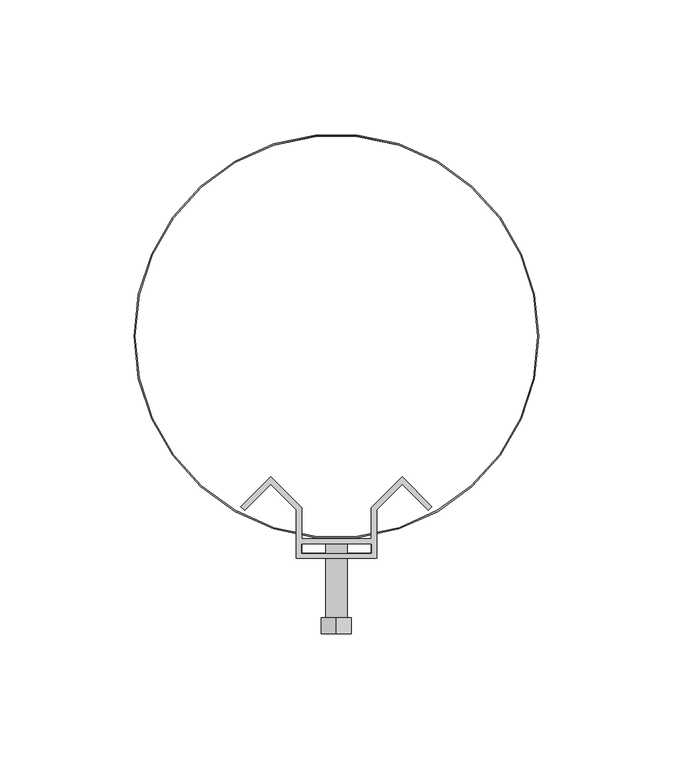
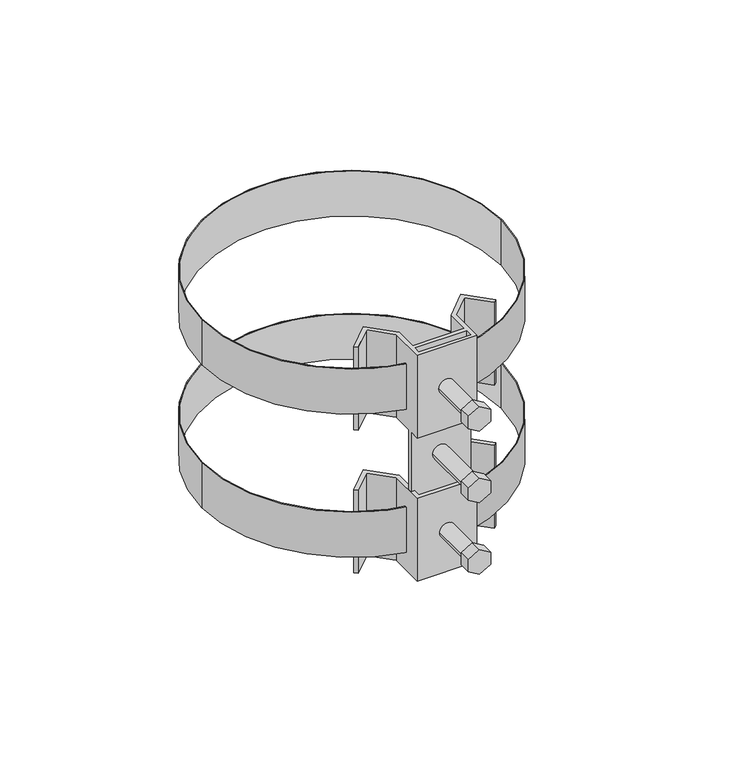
"""IFC4 building model written with IfcOpenShell, lengths in millimetres: proxy geometry, КНС_ХомутДвойнойТрубныйДляИзолированнойМачты_DKC : NK3103_Нержавеющая сталь_D150."""

from ifc_helpers import new_model, si_unit, point, frame, frame_2d, origin, origin_2d, place, context, project, spatial, polyline, circle_curve, trimmed, segment, composite_curve, outline, extrude, faceted_brep, source, transform, mapped, element, save


def security_devices_05d823bf(model_context):
    return source(origin(), model_context, "Body", "SolidModel", [
        extrude(outline(polyline([(-24.5148443, -55.2143378), (-34.1969759, -64.8964694), (-35.6111894, -63.4822559), (-24.5148443, -52.3859107), (-13.0, -63.900755), (-13.0, -80.8323522), (13.0, -80.8323522), (13.0, -63.900755), (24.5148443, -52.3859107), (35.6111894, -63.4822559), (34.1969759, -64.8964694), (24.5148443, -55.2143378), (15.0, -64.7291821), (15.0, -82.8323522), (-15.0, -82.8323522), (-15.0, -64.7291821), (-24.5148443, -55.2143378)])), frame((0.0, 0.0, -60.0), z_axis=(0.0, 0.0, 1.0), x_axis=(1.0, 0.0, 0.0)), (0.0, 0.0, 1.0), 44.0),
        extrude(outline(composite_curve([segment(trimmed(circle_curve(frame_2d((-38.0, 0.0)), 4.0), [point((-38.0, -4.0))], [point((-38.0, 4.0))], False, "CARTESIAN"), True, "CONTINUOUS"), segment(trimmed(circle_curve(frame_2d((-38.0, 0.0)), 4.0), [point((-38.0, 4.0))], [point((-38.0, -4.0))], False, "CARTESIAN"), True, "CONTINUOUS")], self_intersect=False)), frame((0.0, -105.0, 0.0), z_axis=(0.0, 1.0, 0.0), x_axis=(0.0, 0.0, 1.0)), (0.0, 0.0, 1.0), 30.0),
        extrude(outline(polyline([(-34.7486159, -5.6315625), (-41.2513841, -5.6315625), (-44.5027683, 0.0), (-41.2513841, 5.6315625), (-34.7486159, 5.6315625), (-31.4972317, 0.0), (-34.7486159, -5.6315625)])), frame((0.0, -111.0, 0.0), z_axis=(0.0, 1.0, 0.0), x_axis=(0.0, 0.0, 1.0)), (0.0, 0.0, 1.0), 6.0),
        extrude(outline(composite_curve([segment(trimmed(circle_curve(origin_2d(), 4.0), [point((0.0, -4.0))], [point((0.0, 4.0))], False, "CARTESIAN"), True, "CONTINUOUS"), segment(trimmed(circle_curve(origin_2d(), 4.0), [point((0.0, 4.0))], [point((0.0, -4.0))], False, "CARTESIAN"), True, "CONTINUOUS")], self_intersect=False)), frame((0.0, -105.0, 0.0), z_axis=(0.0, 1.0, 0.0), x_axis=(0.0, 0.0, 1.0)), (0.0, 0.0, 1.0), 30.0),
        extrude(outline(polyline([(3.2513841, -5.6315625), (-3.2513841, -5.6315625), (-6.5027683, 0.0), (-3.2513841, 5.6315625), (3.2513841, 5.6315625), (6.5027683, 0.0), (3.2513841, -5.6315625)])), frame((0.0, -111.0, 0.0), z_axis=(0.0, 1.0, 0.0), x_axis=(0.0, 0.0, 1.0)), (0.0, 0.0, 1.0), 6.0),
        extrude(outline(composite_curve([segment(trimmed(circle_curve(frame_2d((38.0, 0.0)), 4.0), [point((38.0, -4.0))], [point((38.0, 4.0))], False, "CARTESIAN"), True, "CONTINUOUS"), segment(trimmed(circle_curve(frame_2d((38.0, 0.0)), 4.0), [point((38.0, 4.0))], [point((38.0, -4.0))], False, "CARTESIAN"), True, "CONTINUOUS")], self_intersect=False)), frame((0.0, -105.0, 0.0), z_axis=(0.0, 1.0, 0.0), x_axis=(0.0, 0.0, 1.0)), (0.0, 0.0, 1.0), 30.0),
        extrude(outline(polyline([(41.2513841, -5.6315625), (34.7486159, -5.6315625), (31.4972317, 0.0), (34.7486159, 5.6315625), (41.2513841, 5.6315625), (44.5027683, 0.0), (41.2513841, -5.6315625)])), frame((0.0, -111.0, 0.0), z_axis=(0.0, 1.0, 0.0), x_axis=(0.0, 0.0, 1.0)), (0.0, 0.0, 1.0), 6.0),
        faceted_brep([(-24.5148443, -55.2143378, 60.0), (-15.0, -64.7291821, 60.0), (-15.0, -82.8323522, 60.0), (15.0, -82.8323522, 60.0), (15.0, -64.7291821, 60.0), (24.5148443, -55.2143378, 60.0), (34.1969759, -64.8964694, 60.0), (35.6111894, -63.4822559, 60.0), (24.5148443, -52.3859107, 60.0), (13.0, -63.900755, 60.0), (13.0, -75.5, 60.0), (-13.0, -75.5, 60.0), (-13.0, -63.900755, 60.0), (-24.5148443, -52.3859107, 60.0), (-35.6111894, -63.4822559, 60.0), (-34.1969759, -64.8964694, 60.0), (-13.0, -80.8323522, 60.0), (-13.0, -77.5, 60.0), (13.0, -77.5, 60.0), (13.0, -80.8323522, 60.0), (-24.5148443, -55.2143378, 16.0), (-34.1969759, -64.8964694, 16.0), (-35.6111894, -63.4822559, 16.0), (-24.5148443, -52.3859107, 16.0), (-13.0, -63.900755, 16.0), (-13.0, -75.5, 16.0), (-15.0, -75.5, 16.0), (-15.0, -64.7291821, 16.0), (-13.0, -80.8323522, 16.0), (13.0, -80.8323522, 16.0), (13.0, -77.5, 16.0), (15.0, -77.5, 16.0), (15.0, -82.8323522, 16.0), (-15.0, -82.8323522, 16.0), (-15.0, -77.5, 16.0), (-13.0, -77.5, 16.0), (13.0, -63.900755, 16.0), (24.5148443, -52.3859107, 16.0), (35.6111894, -63.4822559, 16.0), (34.1969759, -64.8964694, 16.0), (24.5148443, -55.2143378, 16.0), (15.0, -64.7291821, 16.0), (15.0, -75.5, 16.0), (13.0, -75.5, 16.0), (-15.0, -75.5, -60.0), (-15.0, -77.5, -60.0), (15.0, -77.5, -60.0), (15.0, -75.5, -60.0)], [[[0, 1, 2, 3, 4, 5, 6, 7, 8, 9, 10, 11, 12, 13, 14, 15], [16, 17, 18, 19]], [[20, 21, 22, 23, 24, 25, 26, 27]], [[28, 29, 30, 31, 32, 33, 34, 35]], [[36, 37, 38, 39, 40, 41, 42, 43]], [[1, 0, 20, 27]], [[2, 1, 27, 26, 44, 45, 34, 33]], [[3, 2, 33, 32]], [[4, 3, 32, 31, 46, 47, 42, 41]], [[5, 4, 41, 40]], [[6, 5, 40, 39]], [[7, 6, 39, 38]], [[8, 7, 38, 37]], [[9, 8, 37, 36]], [[9, 36, 43, 10]], [[29, 19, 18, 30]], [[16, 19, 29, 28]], [[16, 28, 35, 17]], [[24, 12, 11, 25]], [[13, 12, 24, 23]], [[14, 13, 23, 22]], [[15, 14, 22, 21]], [[0, 15, 21, 20]], [[44, 47, 46, 45]], [[45, 46, 31, 30, 18, 17, 35, 34]], [[47, 44, 26, 25, 11, 10, 43, 42]]]),
        extrude(outline(composite_curve([segment(trimmed(circle_curve(origin_2d(), 75.5), [point((-75.5, 0.0))], [point((75.5, 0.0))], False, "CARTESIAN"), True, "CONTINUOUS"), segment(trimmed(circle_curve(origin_2d(), 75.5), [point((75.5, 0.0))], [point((-75.5, 0.0))], False, "CARTESIAN"), True, "CONTINUOUS")], self_intersect=False), holes=[composite_curve([segment(trimmed(circle_curve(origin_2d(), 75.0), [point((-75.0, 0.0))], [point((75.0, 0.0))], True, "CARTESIAN"), True, "CONTINUOUS"), segment(trimmed(circle_curve(origin_2d(), 75.0), [point((75.0, 0.0))], [point((-75.0, 0.0))], True, "CARTESIAN"), True, "CONTINUOUS")], self_intersect=False)]), frame((0.0, 0.0, -50.0), z_axis=(0.0, 0.0, 1.0), x_axis=(1.0, 0.0, 0.0)), (0.0, 0.0, 1.0), 24.0),
        extrude(outline(composite_curve([segment(trimmed(circle_curve(origin_2d(), 75.5), [point((-75.5, 0.0))], [point((75.5, 0.0))], False, "CARTESIAN"), True, "CONTINUOUS"), segment(trimmed(circle_curve(origin_2d(), 75.5), [point((75.5, 0.0))], [point((-75.5, 0.0))], False, "CARTESIAN"), True, "CONTINUOUS")], self_intersect=False), holes=[composite_curve([segment(trimmed(circle_curve(origin_2d(), 75.0), [point((-75.0, 0.0))], [point((75.0, 0.0))], True, "CARTESIAN"), True, "CONTINUOUS"), segment(trimmed(circle_curve(origin_2d(), 75.0), [point((75.0, 0.0))], [point((-75.0, 0.0))], True, "CARTESIAN"), True, "CONTINUOUS")], self_intersect=False)]), frame((0.0, 0.0, 26.0), z_axis=(0.0, 0.0, 1.0), x_axis=(1.0, 0.0, 0.0)), (0.0, 0.0, 1.0), 24.0),
    ])


if __name__ == "__main__":
    model = new_model("IFC4")
    model_context = context("Model", 3, world=origin())
    ifc_project = project(units=[si_unit("LENGTHUNIT", "METRE", prefix="MILLI")], contexts=[model_context])
    site = spatial("IfcSite", under=ifc_project)
    building = spatial("IfcBuilding", under=site)
    placement = place(None, origin())
    security_devices_shape = security_devices_05d823bf(model_context)
    element("IfcBuildingElementProxy", 1, Name="КНС_ХомутДвойнойТрубныйДляИзолированнойМачты_DKC : NK3103_Нержавеющая сталь_D150", ObjectType="КНС_ХомутДвойнойТрубныйДляИзолированнойМачты_DKC : NK3103_Нержавеющая сталь_D150", at=placement, inside=building, context=model_context, shape_type="MappedRepresentation", body=[
        mapped(security_devices_shape, transform((0.0, 0.0, 0.0), x_axis=(1.0, 0.0, 0.0), y_axis=(0.0, 1.0, 0.0), z_axis=(0.0, 0.0, 1.0))),
    ])
    save(model, "model.ifc")
